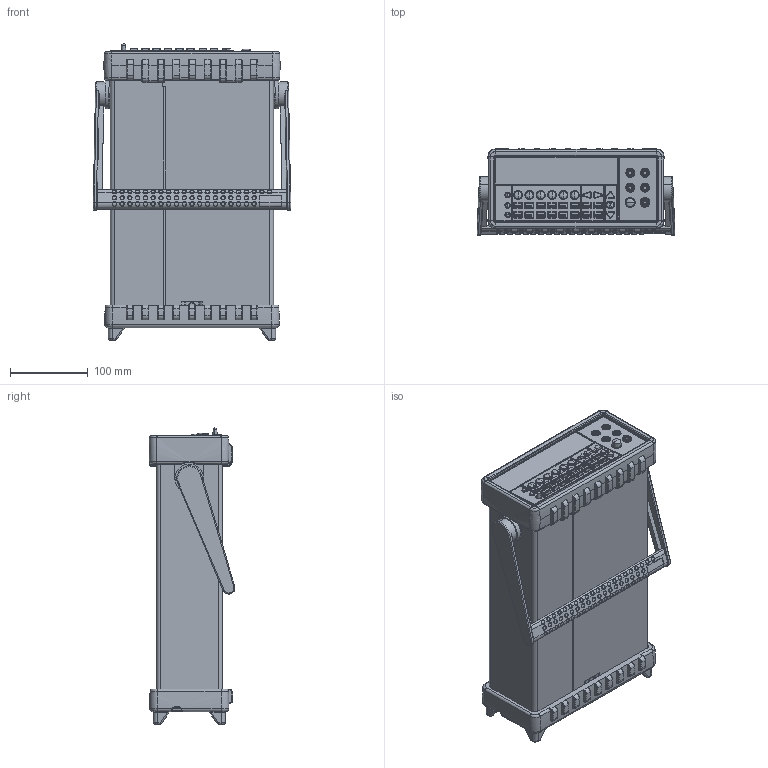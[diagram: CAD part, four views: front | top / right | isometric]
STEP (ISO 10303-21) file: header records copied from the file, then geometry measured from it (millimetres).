
FILE_DESCRIPTION (( 'STEP AP203' ), '1' );
FILE_NAME ('KI_2100含護套手把.STEP', '2017-05-02T09:48:41', ( 'Amy' ), ( '' ), 'SwSTEP 2.0', 'SolidWorks 2012', '' );
FILE_SCHEMA (( 'CONFIG_CONTROL_DESIGN' ));
Products named in the file (1): KI_2100含護套手把
Bounding box: 254.48 x 110.61 x 381.25 mm (x, y, z)
Surface area: 516634.3 mm2 (no closed solid volume)
Topology: 0 solids, 99 shells, 2783 faces, 8959 edges, 6093 vertices
Faces by surface type: cylinder 1039, plane 761, torus 395, bspline 363, cone 192, sphere 33
Entity records: 116943 total; most frequent: CARTESIAN_POINT 45084, ORIENTED_EDGE 14518, DIRECTION 14322, EDGE_CURVE 8923, VERTEX_POINT 6091, AXIS2_PLACEMENT_3D 5234, LINE 3854, VECTOR 3854
